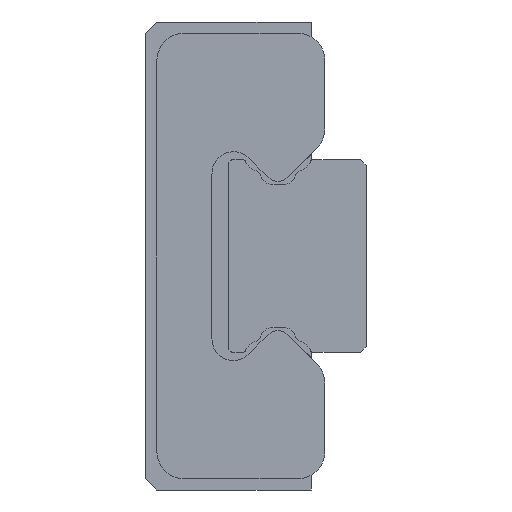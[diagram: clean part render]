
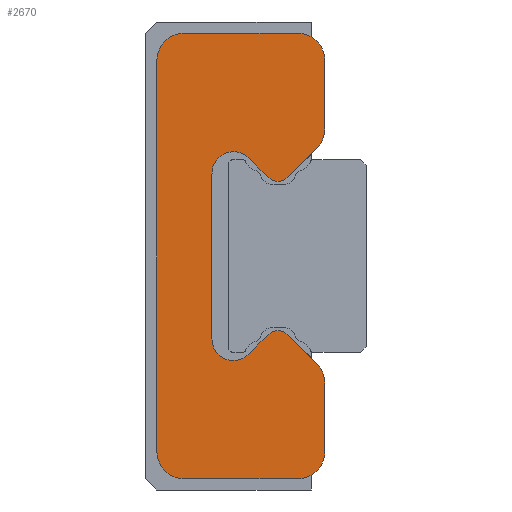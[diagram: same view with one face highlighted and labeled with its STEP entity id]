
A CAD part, left-side view. The second image highlights one B-rep face of the part: STEP entity #2670.
In plain terms, the highlighted planar face has unit normal (-1, 0, 0).
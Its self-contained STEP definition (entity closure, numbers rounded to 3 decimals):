
#242=CIRCLE('',#2957,1.);
#243=CIRCLE('',#2960,0.994);
#244=CIRCLE('',#2963,0.508);
#245=CIRCLE('',#2966,0.787);
#246=CIRCLE('',#2969,0.783);
#247=CIRCLE('',#2972,0.505);
#248=CIRCLE('',#2975,0.994);
#249=CIRCLE('',#2978,1.);
#250=CIRCLE('',#2981,1.);
#251=CIRCLE('',#2984,1.);
#856=ORIENTED_EDGE('',*,*,#1319,.F.);
#857=ORIENTED_EDGE('',*,*,#1357,.F.);
#858=ORIENTED_EDGE('',*,*,#1355,.F.);
#859=ORIENTED_EDGE('',*,*,#1353,.F.);
#860=ORIENTED_EDGE('',*,*,#1351,.F.);
#861=ORIENTED_EDGE('',*,*,#1349,.F.);
#862=ORIENTED_EDGE('',*,*,#1347,.F.);
#863=ORIENTED_EDGE('',*,*,#1345,.F.);
#864=ORIENTED_EDGE('',*,*,#1343,.F.);
#865=ORIENTED_EDGE('',*,*,#1341,.F.);
#866=ORIENTED_EDGE('',*,*,#1339,.F.);
#867=ORIENTED_EDGE('',*,*,#1337,.T.);
#868=ORIENTED_EDGE('',*,*,#1335,.F.);
#869=ORIENTED_EDGE('',*,*,#1333,.T.);
#870=ORIENTED_EDGE('',*,*,#1331,.F.);
#871=ORIENTED_EDGE('',*,*,#1329,.F.);
#872=ORIENTED_EDGE('',*,*,#1327,.F.);
#873=ORIENTED_EDGE('',*,*,#1325,.F.);
#874=ORIENTED_EDGE('',*,*,#1323,.F.);
#875=ORIENTED_EDGE('',*,*,#1321,.F.);
#1319=EDGE_CURVE('',#1626,#1627,#1832,.T.);
#1321=EDGE_CURVE('',#1627,#1628,#242,.T.);
#1323=EDGE_CURVE('',#1628,#1629,#1835,.T.);
#1325=EDGE_CURVE('',#1629,#1630,#243,.T.);
#1327=EDGE_CURVE('',#1630,#1631,#1838,.T.);
#1329=EDGE_CURVE('',#1631,#1632,#244,.T.);
#1331=EDGE_CURVE('',#1632,#1633,#1841,.T.);
#1333=EDGE_CURVE('',#1634,#1633,#245,.T.);
#1335=EDGE_CURVE('',#1634,#1635,#1844,.T.);
#1337=EDGE_CURVE('',#1636,#1635,#246,.T.);
#1339=EDGE_CURVE('',#1636,#1637,#1847,.T.);
#1341=EDGE_CURVE('',#1637,#1638,#247,.T.);
#1343=EDGE_CURVE('',#1638,#1639,#1850,.T.);
#1345=EDGE_CURVE('',#1639,#1640,#248,.T.);
#1347=EDGE_CURVE('',#1640,#1641,#1853,.T.);
#1349=EDGE_CURVE('',#1641,#1642,#249,.T.);
#1351=EDGE_CURVE('',#1642,#1643,#1856,.T.);
#1353=EDGE_CURVE('',#1643,#1644,#250,.T.);
#1355=EDGE_CURVE('',#1644,#1645,#1859,.T.);
#1357=EDGE_CURVE('',#1645,#1626,#251,.T.);
#1626=VERTEX_POINT('',#4490);
#1627=VERTEX_POINT('',#4492);
#1628=VERTEX_POINT('',#4496);
#1629=VERTEX_POINT('',#4500);
#1630=VERTEX_POINT('',#4504);
#1631=VERTEX_POINT('',#4508);
#1632=VERTEX_POINT('',#4512);
#1633=VERTEX_POINT('',#4516);
#1634=VERTEX_POINT('',#4520);
#1635=VERTEX_POINT('',#4524);
#1636=VERTEX_POINT('',#4528);
#1637=VERTEX_POINT('',#4532);
#1638=VERTEX_POINT('',#4536);
#1639=VERTEX_POINT('',#4540);
#1640=VERTEX_POINT('',#4544);
#1641=VERTEX_POINT('',#4548);
#1642=VERTEX_POINT('',#4552);
#1643=VERTEX_POINT('',#4556);
#1644=VERTEX_POINT('',#4560);
#1645=VERTEX_POINT('',#4564);
#1832=LINE('',#4491,#2062);
#1835=LINE('',#4499,#2065);
#1838=LINE('',#4507,#2068);
#1841=LINE('',#4515,#2071);
#1844=LINE('',#4523,#2074);
#1847=LINE('',#4531,#2077);
#1850=LINE('',#4539,#2080);
#1853=LINE('',#4547,#2083);
#1856=LINE('',#4555,#2086);
#1859=LINE('',#4563,#2089);
#2062=VECTOR('',#3646,1000.);
#2065=VECTOR('',#3655,1000.);
#2068=VECTOR('',#3664,1000.);
#2071=VECTOR('',#3673,1000.);
#2074=VECTOR('',#3682,1000.);
#2077=VECTOR('',#3691,1000.);
#2080=VECTOR('',#3700,1000.);
#2083=VECTOR('',#3709,1000.);
#2086=VECTOR('',#3718,1000.);
#2089=VECTOR('',#3727,1000.);
#2250=EDGE_LOOP('',(#856,#857,#858,#859,#860,#861,#862,#863,#864,#865,#866,
#867,#868,#869,#870,#871,#872,#873,#874,#875));
#2436=FACE_BOUND('',#2250,.T.);
#2553=PLANE('',#2985);
#2670=ADVANCED_FACE('',(#2436),#2553,.F.);
#2957=AXIS2_PLACEMENT_3D('',#4495,#3650,#3651);
#2960=AXIS2_PLACEMENT_3D('',#4503,#3659,#3660);
#2963=AXIS2_PLACEMENT_3D('',#4511,#3668,#3669);
#2966=AXIS2_PLACEMENT_3D('',#4519,#3677,#3678);
#2969=AXIS2_PLACEMENT_3D('',#4527,#3686,#3687);
#2972=AXIS2_PLACEMENT_3D('',#4535,#3695,#3696);
#2975=AXIS2_PLACEMENT_3D('',#4543,#3704,#3705);
#2978=AXIS2_PLACEMENT_3D('',#4551,#3713,#3714);
#2981=AXIS2_PLACEMENT_3D('',#4559,#3722,#3723);
#2984=AXIS2_PLACEMENT_3D('',#4567,#3731,#3732);
#2985=AXIS2_PLACEMENT_3D('',#4568,#3733,#3734);
#3646=DIRECTION('',(0.,-1.,0.));
#3650=DIRECTION('',(1.,0.,0.));
#3651=DIRECTION('',(0.,0.,-1.));
#3655=DIRECTION('',(0.,0.,-1.));
#3659=DIRECTION('',(1.,0.,0.));
#3660=DIRECTION('',(0.,0.,-1.));
#3664=DIRECTION('',(0.,0.707,-0.707));
#3668=DIRECTION('',(1.,0.,0.));
#3669=DIRECTION('',(0.,0.,-1.));
#3673=DIRECTION('',(0.,0.707,0.707));
#3677=DIRECTION('',(1.,0.,0.));
#3678=DIRECTION('',(0.,0.,-1.));
#3682=DIRECTION('',(0.,0.,-1.));
#3686=DIRECTION('',(1.,0.,0.));
#3687=DIRECTION('',(0.,0.,-1.));
#3691=DIRECTION('',(0.,-0.707,0.707));
#3695=DIRECTION('',(1.,0.,0.));
#3696=DIRECTION('',(0.,0.,-1.));
#3700=DIRECTION('',(0.,-0.707,-0.707));
#3704=DIRECTION('',(1.,0.,0.));
#3705=DIRECTION('',(0.,0.,-1.));
#3709=DIRECTION('',(0.,0.,-1.));
#3713=DIRECTION('',(1.,0.,0.));
#3714=DIRECTION('',(0.,0.,-1.));
#3718=DIRECTION('',(0.,1.,0.));
#3722=DIRECTION('',(1.,0.,0.));
#3723=DIRECTION('',(0.,0.,-1.));
#3727=DIRECTION('',(0.,0.,1.));
#3731=DIRECTION('',(1.,0.,0.));
#3732=DIRECTION('',(0.,0.,-1.));
#3733=DIRECTION('',(1.,0.,0.));
#3734=DIRECTION('',(0.,0.,-1.));
#4490=CARTESIAN_POINT('',(-15.8,-1.4,8.1));
#4491=CARTESIAN_POINT('',(-15.8,-1.4,8.1));
#4492=CARTESIAN_POINT('',(-15.8,-5.5,8.1));
#4495=CARTESIAN_POINT('',(-15.8,-5.5,7.1));
#4496=CARTESIAN_POINT('',(-15.8,-6.5,7.1));
#4499=CARTESIAN_POINT('',(-15.8,-6.5,7.1));
#4500=CARTESIAN_POINT('',(-15.8,-6.5,4.614));
#4503=CARTESIAN_POINT('',(-15.8,-5.506,4.612));
#4504=CARTESIAN_POINT('',(-15.8,-6.207,3.907));
#4507=CARTESIAN_POINT('',(-15.8,-6.207,3.907));
#4508=CARTESIAN_POINT('',(-15.8,-5.153,2.854));
#4511=CARTESIAN_POINT('',(-15.8,-4.8,3.218));
#4512=CARTESIAN_POINT('',(-15.8,-4.446,2.854));
#4515=CARTESIAN_POINT('',(-15.8,-4.446,2.854));
#4516=CARTESIAN_POINT('',(-15.8,-3.766,3.534));
#4519=CARTESIAN_POINT('',(-15.8,-3.186,3.002));
#4520=CARTESIAN_POINT('',(-15.8,-2.4,2.968));
#4523=CARTESIAN_POINT('',(-15.8,-2.4,2.968));
#4524=CARTESIAN_POINT('',(-15.8,-2.4,-2.968));
#4527=CARTESIAN_POINT('',(-15.8,-3.182,-3.013));
#4528=CARTESIAN_POINT('',(-15.8,-3.766,-3.534));
#4531=CARTESIAN_POINT('',(-15.8,-3.766,-3.534));
#4532=CARTESIAN_POINT('',(-15.8,-4.446,-2.854));
#4535=CARTESIAN_POINT('',(-15.8,-4.8,-3.214));
#4536=CARTESIAN_POINT('',(-15.8,-5.153,-2.854));
#4539=CARTESIAN_POINT('',(-15.8,-5.153,-2.854));
#4540=CARTESIAN_POINT('',(-15.8,-6.207,-3.907));
#4543=CARTESIAN_POINT('',(-15.8,-5.506,-4.612));
#4544=CARTESIAN_POINT('',(-15.8,-6.5,-4.614));
#4547=CARTESIAN_POINT('',(-15.8,-6.5,-4.614));
#4548=CARTESIAN_POINT('',(-15.8,-6.5,-7.1));
#4551=CARTESIAN_POINT('',(-15.8,-5.5,-7.1));
#4552=CARTESIAN_POINT('',(-15.8,-5.5,-8.1));
#4555=CARTESIAN_POINT('',(-15.8,-5.5,-8.1));
#4556=CARTESIAN_POINT('',(-15.8,-1.4,-8.1));
#4559=CARTESIAN_POINT('',(-15.8,-1.4,-7.1));
#4560=CARTESIAN_POINT('',(-15.8,-0.4,-7.1));
#4563=CARTESIAN_POINT('',(-15.8,-0.4,-7.1));
#4564=CARTESIAN_POINT('',(-15.8,-0.4,7.1));
#4567=CARTESIAN_POINT('',(-15.8,-1.4,7.1));
#4568=CARTESIAN_POINT('',(-15.8,-5.5,7.1));
